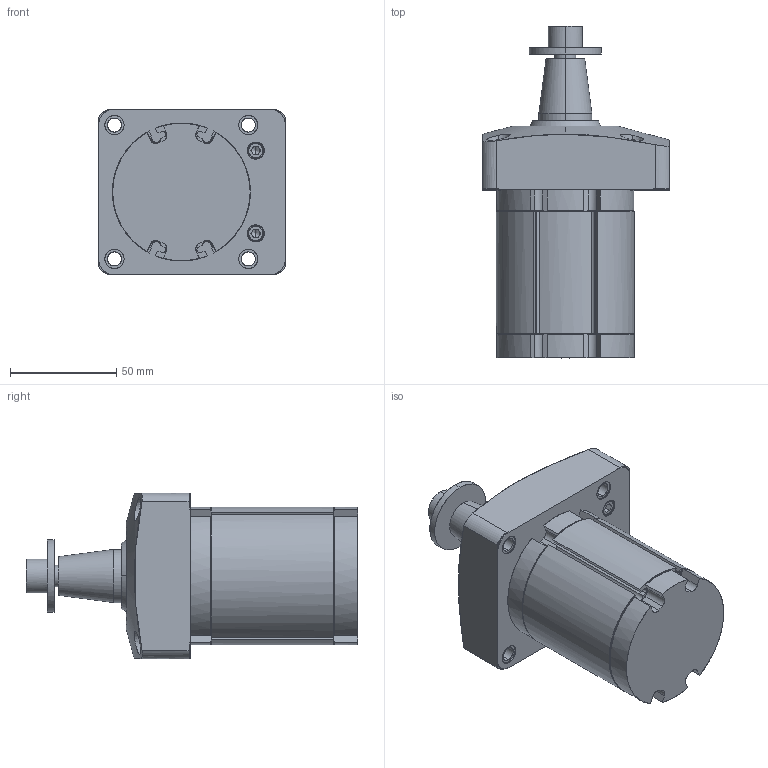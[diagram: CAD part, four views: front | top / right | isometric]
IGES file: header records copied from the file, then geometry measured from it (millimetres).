
Start section: Comment
Global section: file name: jsm40-20.igs; native system:  By Spatial Corp.; preprocessor: XPlus GENERIC/IGES 3.0; author: Author; organization: Title; date: 20080526.115620; units: millimetre
Bounding box: 88 x 156.2 x 78 mm (x, y, z)
Surface area: 79442.6 mm2 (no closed solid volume)
Topology: 0 solids, 0 shells, 377 faces, 1888 edges, 1874 vertices
Faces by surface type: bspline 377
